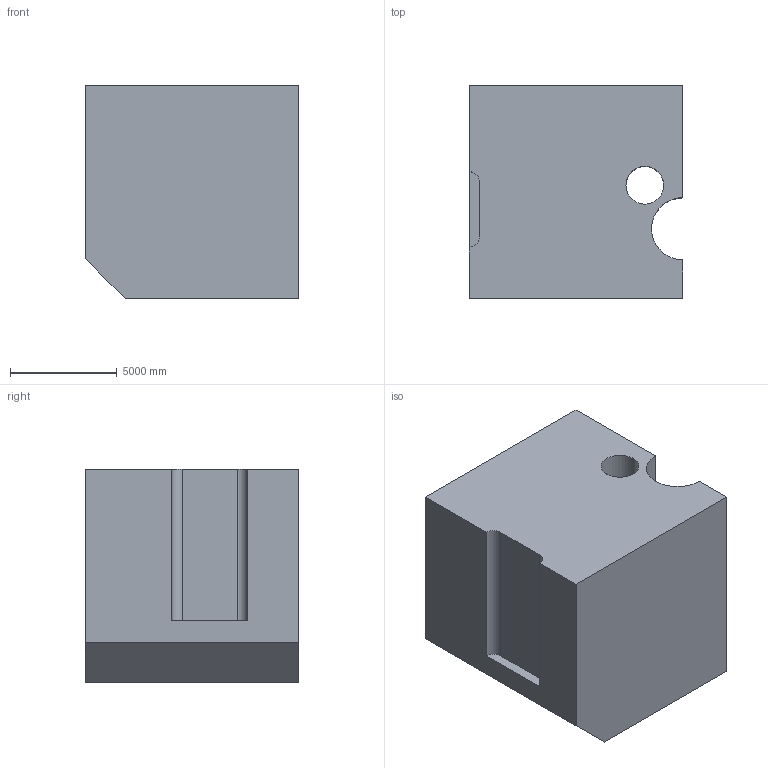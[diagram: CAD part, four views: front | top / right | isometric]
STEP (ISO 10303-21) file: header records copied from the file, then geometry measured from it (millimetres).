
FILE_DESCRIPTION (( 'STEP AP203' ), '1' );
FILE_NAME ('41.STEP', '2022-09-01T11:43:39', ( 'user' ), ( '' ), 'SwSTEP 2.0', 'SolidWorks 2021', '' );
FILE_SCHEMA (( 'CONFIG_CONTROL_DESIGN' ));
Length unit declared in the file: centimetre
Products named in the file (1): 41
Bounding box: 10000 x 10000 x 10000 mm (x, y, z)
Volume: 897984563057.4 mm3; surface area: 690101451.1 mm2
Topology: 1 solids, 1 shells, 21 faces, 51 edges, 34 vertices
Faces by surface type: plane 12, cylinder 9
Entity records: 704 total; most frequent: DIRECTION 113, CARTESIAN_POINT 107, ORIENTED_EDGE 102, EDGE_CURVE 51, AXIS2_PLACEMENT_3D 40, VERTEX_POINT 34, VECTOR 33, LINE 33
